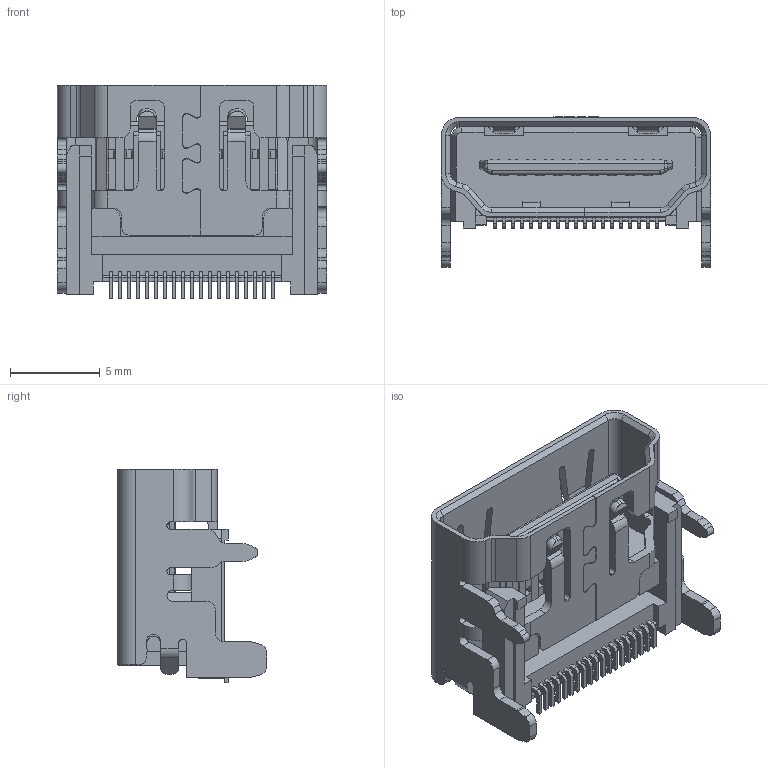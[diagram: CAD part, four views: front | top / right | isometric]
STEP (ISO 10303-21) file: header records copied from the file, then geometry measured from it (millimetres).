
FILE_DESCRIPTION (( 'STEP AP214' ), '1' );
FILE_NAME ('U4001-19P11.6LBA0.5A.STEP', '2026-05-30T08:10:54', ( '' ), ( '' ), 'SwSTEP 2.0', 'SolidWorks 2024', '' );
FILE_SCHEMA (( 'AUTOMOTIVE_DESIGN' ));
Length unit declared in the file: millimetre
Products named in the file (1): U4001-19P11.6LBA0.5A
Bounding box: 15 x 8.35 x 11.9 mm (x, y, z)
Volume: 463.2 mm3; surface area: 1393.8 mm2
Topology: 1 solids, 1 shells, 1235 faces, 3617 edges, 2366 vertices
Faces by surface type: plane 833, cylinder 283, bspline 109, cone 10
Entity records: 44971 total; most frequent: CARTESIAN_POINT 12755, ORIENTED_EDGE 7214, DIRECTION 5968, EDGE_CURVE 3607, LINE 2722, VECTOR 2722, VERTEX_POINT 2366, AXIS2_PLACEMENT_3D 1623
